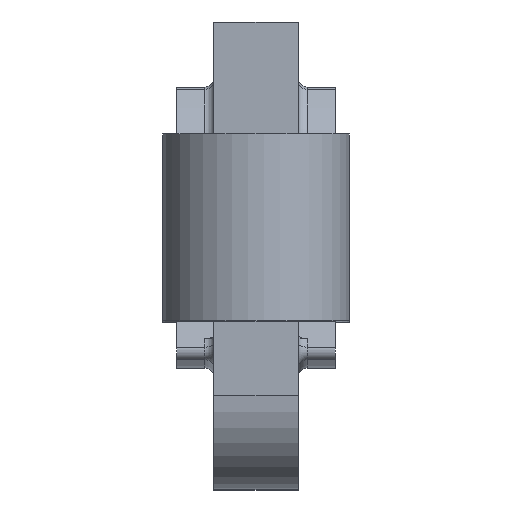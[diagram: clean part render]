
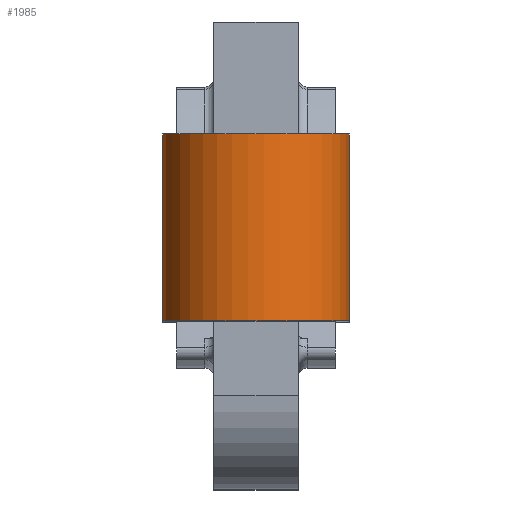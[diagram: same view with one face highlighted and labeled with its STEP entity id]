
A CAD part, top view. The second image highlights one B-rep face of the part: STEP entity #1985.
In plain terms, the highlighted cylindrical face has radius 5 mm (diameter 10 mm), a partial arc.
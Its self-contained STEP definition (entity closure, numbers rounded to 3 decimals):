
#345=DIRECTION('',(0.,-1.,0.));
#346=VECTOR('',#345,10.);
#347=CARTESIAN_POINT('',(-3.625,-6.,14.831));
#348=LINE('',#347,#346);
#349=CARTESIAN_POINT('',(0.,-6.,18.275));
#350=DIRECTION('',(0.,1.,0.));
#351=DIRECTION('',(-0.725,0.,-0.689));
#352=AXIS2_PLACEMENT_3D('',#349,#350,#351);
#354=DIRECTION('',(0.,1.,0.));
#355=VECTOR('',#354,10.);
#356=CARTESIAN_POINT('',(3.625,-16.,14.831));
#357=LINE('',#356,#355);
#358=CARTESIAN_POINT('',(0.,-16.,18.275));
#359=DIRECTION('',(0.,-1.,0.));
#360=DIRECTION('',(0.725,0.,-0.689));
#361=AXIS2_PLACEMENT_3D('',#358,#359,#360);
#1663=CARTESIAN_POINT('',(-3.625,-6.,14.831));
#1664=CARTESIAN_POINT('',(-3.625,-16.,14.831));
#1665=VERTEX_POINT('',#1663);
#1666=VERTEX_POINT('',#1664);
#1683=CARTESIAN_POINT('',(3.625,-16.,14.831));
#1684=CARTESIAN_POINT('',(3.625,-6.,14.831));
#1685=VERTEX_POINT('',#1683);
#1686=VERTEX_POINT('',#1684);
#1971=CARTESIAN_POINT('',(0.,0.,18.275));
#1972=DIRECTION('',(0.,1.,0.));
#1973=DIRECTION('',(0.,0.,1.));
#1974=AXIS2_PLACEMENT_3D('',#1971,#1972,#1973);
#1975=CYLINDRICAL_SURFACE('',#1974,5.);
#1977=ORIENTED_EDGE('',*,*,#1976,.F.);
#1979=ORIENTED_EDGE('',*,*,#1978,.T.);
#1981=ORIENTED_EDGE('',*,*,#1980,.F.);
#1982=ORIENTED_EDGE('',*,*,#1929,.T.);
#1983=EDGE_LOOP('',(#1977,#1979,#1981,#1982));
#1984=FACE_OUTER_BOUND('',#1983,.F.);
#1985=ADVANCED_FACE('',(#1984),#1975,.T.);
#353=CIRCLE('',#352,5.);
#362=CIRCLE('',#361,5.);
#1929=EDGE_CURVE('',#1685,#1666,#362,.T.);
#1976=EDGE_CURVE('',#1665,#1666,#348,.T.);
#1978=EDGE_CURVE('',#1665,#1686,#353,.T.);
#1980=EDGE_CURVE('',#1685,#1686,#357,.T.);
